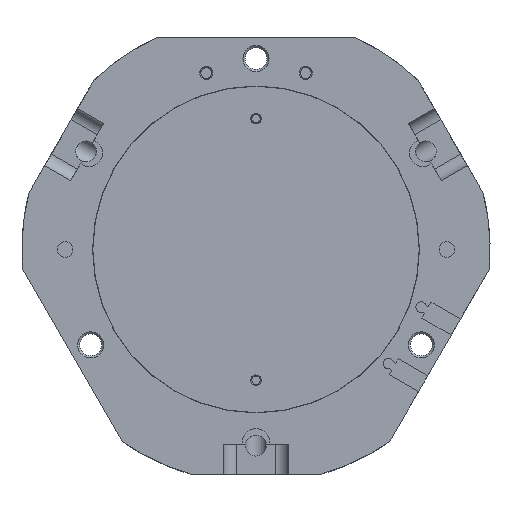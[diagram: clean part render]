
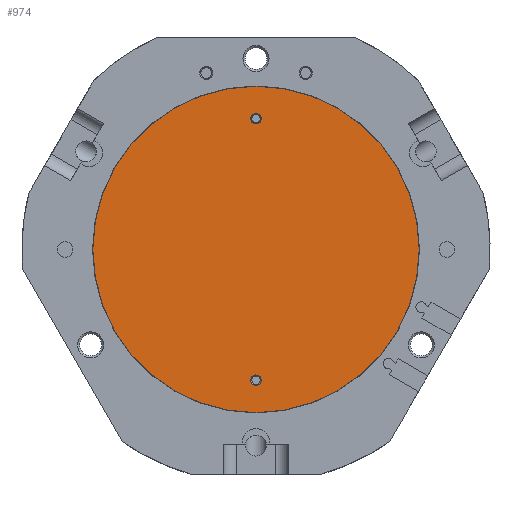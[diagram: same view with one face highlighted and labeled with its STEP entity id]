
A CAD part, front view. The second image highlights one B-rep face of the part: STEP entity #974.
In plain terms, the highlighted planar face has unit normal (0, -1, 0).
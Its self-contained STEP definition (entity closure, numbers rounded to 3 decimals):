
#974 = ADVANCED_FACE( '', ( #2040, #2041, #2042 ), #2043, .F. );
#2040 = FACE_BOUND( '', #3111, .T. );
#2041 = FACE_OUTER_BOUND( '', #3112, .T. );
#2042 = FACE_BOUND( '', #3113, .T. );
#2043 = PLANE( '', #3114 );
#3111 = EDGE_LOOP( '', ( #5616 ) );
#3112 = EDGE_LOOP( '', ( #5617 ) );
#3113 = EDGE_LOOP( '', ( #5618 ) );
#3114 = AXIS2_PLACEMENT_3D( '', #5619, #5620, #5621 );
#5616 = ORIENTED_EDGE( '', *, *, #6684, .F. );
#5617 = ORIENTED_EDGE( '', *, *, #6805, .F. );
#5618 = ORIENTED_EDGE( '', *, *, #6349, .F. );
#5619 = CARTESIAN_POINT( '', ( 0., 0., 0. ) );
#5620 = DIRECTION( '', ( 0., 1., 0. ) );
#5621 = DIRECTION( '', ( 0., 0., 1. ) );
#6349 = EDGE_CURVE( '', #7688, #7688, #7689, .T. );
#6684 = EDGE_CURVE( '', #8192, #8192, #8193, .T. );
#6805 = EDGE_CURVE( '', #8337, #8337, #8338, .T. );
#7688 = VERTEX_POINT( '', #9496 );
#7689 = CIRCLE( '', #9497, 2. );
#8192 = VERTEX_POINT( '', #10178 );
#8193 = CIRCLE( '', #10179, 2. );
#8337 = VERTEX_POINT( '', #10396 );
#8338 = CIRCLE( '', #10397, 62.4 );
#9496 = CARTESIAN_POINT( '', ( 0., 0., 48. ) );
#9497 = AXIS2_PLACEMENT_3D( '', #11125, #11126, #11127 );
#10178 = CARTESIAN_POINT( '', ( 0., 0., -52. ) );
#10179 = AXIS2_PLACEMENT_3D( '', #11504, #11505, #11506 );
#10396 = CARTESIAN_POINT( '', ( 62.4, 0., 0. ) );
#10397 = AXIS2_PLACEMENT_3D( '', #11626, #11627, #11628 );
#11125 = CARTESIAN_POINT( '', ( 0., 0., 50. ) );
#11126 = DIRECTION( '', ( 0., -1., 0. ) );
#11127 = DIRECTION( '', ( 0., 0., -1. ) );
#11504 = CARTESIAN_POINT( '', ( 0., 0., -50. ) );
#11505 = DIRECTION( '', ( 0., -1., 0. ) );
#11506 = DIRECTION( '', ( 0., 0., -1. ) );
#11626 = CARTESIAN_POINT( '', ( 0., 0., 0. ) );
#11627 = DIRECTION( '', ( 0., 1., 0. ) );
#11628 = DIRECTION( '', ( 1., 0., 0. ) );
